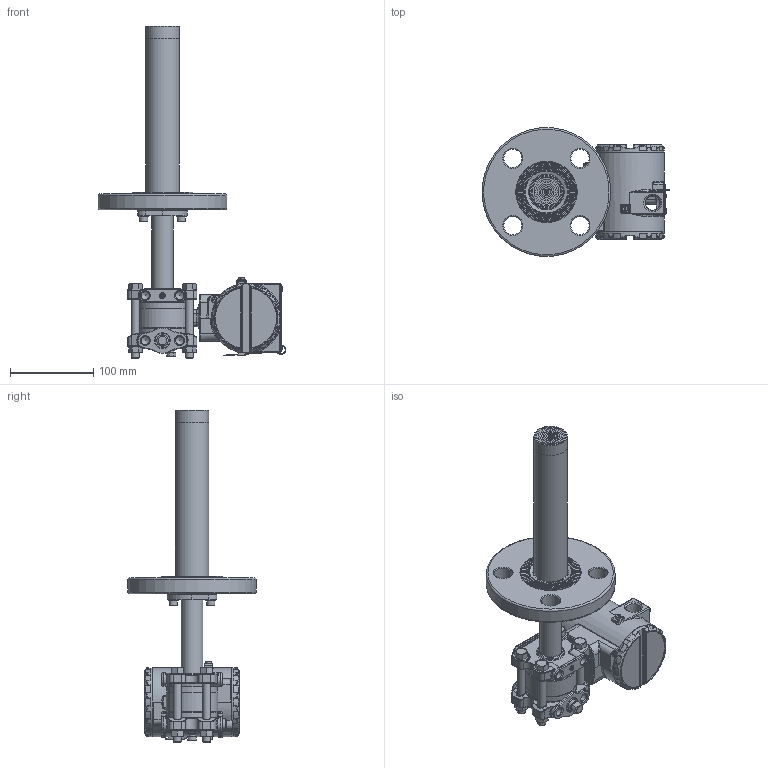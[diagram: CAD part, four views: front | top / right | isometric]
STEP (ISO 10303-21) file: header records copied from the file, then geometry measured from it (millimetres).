
FILE_DESCRIPTION(/* description */ (''),/* implementation_level */ '2;1');
FILE_NAME(/* name */ 'F:\Area\Desenvolvimento_2\Projects\Sensor\projetos\LD30X\montagens 3d - clientes\SELO NIVEL\LD30XL 1-1-2-300 RF ext 200 ref 1-4NPT purga acima.stp',/* time_stamp */ '2023-02-10T14:50:55-03:00',/* author */ ('inventor02'),/* organization */ (''),/* preprocessor_version */ 'ST-DEVELOPER v17',/* originating_system */ 'Autodesk Inventor 2019',/* authorisation */ '');
FILE_SCHEMA (('CONFIG_CONTROL_DESIGN'));
Products named in the file (41): LD30XL 1-1-2-300 RF ext 200 ref 1-4NPT purga acima; 204-0301-L-1-1-2 300 RF ext 200 purga acima; nivel fx3 com baixa diferencial 1-4NPT purga acima; involucro fx0-3 apos a usinagem final; flange diferencial std purga; 101-C-7484-01 flange selo nivel VR; 201-A-0504-tubo união teste 1; bujao 1-4NPT; Sangria; Porca 3-8 x 16 UNC; Paraf. 3-8 x 16 UNC; adaptação tubo x flanges 1-1-2 a 4pol; 101-B-0161-anel cortado do tubo - teste1; 101-B-0162-flange fixação tubo; ANSI B18.3.1M - M6x1 x 16; DIN 127 - A 6; flange 1-1-2 300 ext 200; 101-B-7699-01 ext 1-1-2-200; 101-B-5190-03; 101-C-3331-02; carcaça vazia com tampas e plaqueta; carcaça LD inox sem letras; Subconjunto plaqueta 300; Plaqueta transmissor; Parafuso da Plaqueta; Rebite da Plaqueta; 096-A-0169-03; 101-A-0502-01; Chapa aterramento externo; ISO 1207 - M4 x 8; DIN 915 - M6 x 10; ANSI B18.3.1M - M4x0,7 x 8; Subconjunto tampa com visor aluminio; tampa pintada; VIDRO DO VISOR; oring 41x1 vidro tampa; Trava do vidro da tampa com visor; trava do vidro VH256; Subconjunto tampa sem visor-aluminio; tampa cega 300 pintada p0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
Assembly tree (51 placements, depth 4):
  LD30XL 1-1-2-300 RF ext 200 ref 1-4NPT purga acima
    204-0301-L-1-1-2 300 RF ext 200 purga acima
      nivel fx3 com baixa diferencial 1-4NPT purga acima
        involucro fx0-3 apos a usinagem final
        flange diferencial std purga
        101-C-7484-01 flange selo nivel VR
        201-A-0504-tubo união teste 1
        DIN 915 - M6 x 10
        bujao 1-4NPT
        Sangria
        Porca 3-8 x 16 UNC  x4
        Paraf. 3-8 x 16 UNC  x4
      adaptação tubo x flanges 1-1-2 a 4pol
        101-B-0161-anel cortado do tubo - teste1
        101-B-0162-flange fixação tubo
        ANSI B18.3.1M - M6x1 x 16  x2
        DIN 127 - A 6  x2
      flange 1-1-2 300 ext 200
        101-B-7699-01 ext 1-1-2-200
        101-B-5190-03
        101-C-3331-02
    carcaça vazia com tampas e plaqueta
      carcaça LD inox sem letras
      Subconjunto plaqueta 300
        Plaqueta transmissor
        Parafuso da Plaqueta
        Rebite da Plaqueta
        096-A-0169-03
        101-A-0502-01
      Chapa aterramento externo
      ISO 1207 - M4 x 8
      DIN 915 - M6 x 10
      ANSI B18.3.1M - M4x0,7 x 8  x2
      Subconjunto tampa com visor aluminio
        tampa pintada
        VIDRO DO VISOR
        oring 41x1 vidro tampa
        Trava do vidro da tampa com visor
        trava do vidro VH256
        00034775-0
      Subconjunto tampa sem visor-aluminio
        tampa cega 300 pintada p0
        00034775-0
Bounding box: 225.49 x 154.41 x 399.3 mm (x, y, z)
Volume: 1029225.4 mm3; surface area: 353742.2 mm2
Topology: 43 solids, 43 shells, 2726 faces, 6537 edges, 3867 vertices
Faces by surface type: bspline 667, cylinder 656, plane 560, torus 469, cone 248, sphere 126
Full cylindrical faces by diameter (mm): 2 x4, 2.1 x2, 2.459 x5, 2.5 x1, 2.642 x1, 2.7 x1, 2.8 x1, 3 x4, 3.242 x4, 3.5 x5, 3.571 x1, 4 x5, 4.3 x1, 4.4 x1, 4.917 x4, 5 x1, 5.5 x3, 6 x6, 6.647 x1, 7 x7, 7.087 x2, 7.6 x2, 7.798 x4, 8 x1, 8.7 x2, 9.525 x4, 9.728 x6, 10 x2, 10.5 x8, 10.719 x2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
Entity records: 94293 total; most frequent: CARTESIAN_POINT 34605, DIRECTION 12303, ORIENTED_EDGE 12254, EDGE_CURVE 6127, AXIS2_PLACEMENT_3D 5430, VERTEX_POINT 3673, CIRCLE 3215, EDGE_LOOP 2766
